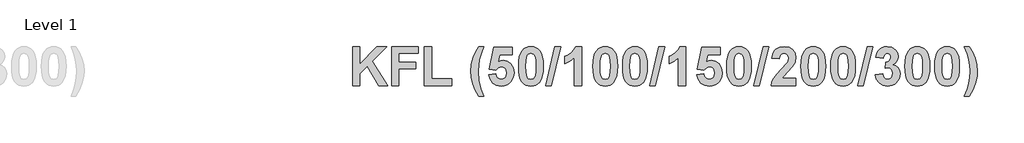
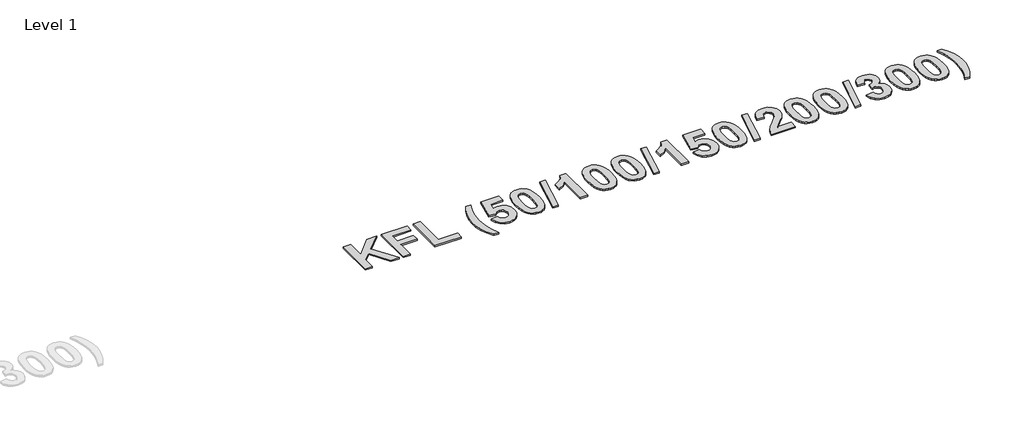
# One storey, part 7 of 42: 1 proxy.
"""IFC4 building model written with IfcOpenShell, lengths in millimetres."""

import ifcopenshell
import ifcopenshell.guid

model = None  # the IFC model being written
_history = None  # IfcOwnerHistory: only IFC2X3 demands one
_inside = {}  # id of a spatial element -> (the spatial element, [elements in it])
_under = {}  # id of a project, library or spatial element -> (it, [spatial elements below it])
_declared = {}  # id of a project -> (the project, [libraries it declares])
_typed = {}  # id of a type object -> (the type object, [elements of that type])
_made_of = {}  # id of a material, layer set ... -> (it, [elements and type objects made of it])


def new_model(schema):
    """Start an empty IFC model of exactly this schema.

    Asked for "IFC4X3", IfcOpenShell would pick the latest addendum, in which some entities
    have other attributes; the version numbers below select the first issue.
    IFC2X3 requires an IfcOwnerHistory on every rooted entity: one is made here for all.
    """
    global model, _history
    if schema == "IFC4X3":
        model = ifcopenshell.file(schema_version=(4, 3, 0, 0))
    else:
        model = ifcopenshell.file(schema=schema)
    _inside.clear()
    _under.clear()
    _declared.clear()
    _typed.clear()
    _made_of.clear()
    _history = None
    if model.schema == "IFC2X3":
        org = make("IfcOrganization", Name="unknown")
        user = make(
            "IfcPersonAndOrganization",
            ThePerson=make("IfcPerson", FamilyName="unknown"),
            TheOrganization=org,
        )
        app = make(
            "IfcApplication",
            ApplicationDeveloper=org,
            Version="unknown",
            ApplicationFullName="unknown",
            ApplicationIdentifier="unknown",
        )
        _history = make(
            "IfcOwnerHistory",
            OwningUser=user,
            OwningApplication=app,
            ChangeAction="ADDED",
            CreationDate=0,
        )
    return model


def make(cls, **values):
    """One entity of the class cls with the attributes given. An attribute that is None is left unset."""
    return model.create_entity(
        cls, **{name: value for name, value in values.items() if value is not None}
    )


def rooted(cls, **values):
    """An entity with a GlobalId (a new one), such as an element, a storey or a relation."""
    return make(cls, GlobalId=ifcopenshell.guid.new(), OwnerHistory=_history, **values)


def si_unit(unit_type, name, prefix=None):
    """IfcSIUnit, for example si_unit("LENGTHUNIT", "METRE", prefix="MILLI")."""
    return make("IfcSIUnit", UnitType=unit_type, Prefix=prefix, Name=name)


def assignment(units):
    """IfcUnitAssignment: the units of a project."""
    return None if units is None else make("IfcUnitAssignment", Units=units)


def point(xyz):
    """IfcCartesianPoint."""
    return None if xyz is None else make("IfcCartesianPoint", Coordinates=xyz)


def direction(xyz):
    """IfcDirection."""
    return None if xyz is None else make("IfcDirection", DirectionRatios=xyz)


def frame(location, z_axis=None, x_axis=None):
    """IfcAxis2Placement3D, a coordinate frame: its origin and axes. An axis left out is left unset."""
    return make(
        "IfcAxis2Placement3D",
        Location=point(location),
        Axis=direction(z_axis),
        RefDirection=direction(x_axis),
    )


def origin():
    """The frame at (0, 0, 0) with its axes left unset."""
    return frame((0.0, 0.0, 0.0))


def origin_with_axes():
    """The frame at (0, 0, 0) with the z axis (0, 0, 1) and the x axis (1, 0, 0) written out."""
    return frame((0.0, 0.0, 0.0), z_axis=(0.0, 0.0, 1.0), x_axis=(1.0, 0.0, 0.0))


def place(relative_to, where):
    """IfcLocalPlacement: puts the frame where relative to a parent placement (None: the world)."""
    return make(
        "IfcLocalPlacement", PlacementRelTo=relative_to, RelativePlacement=where
    )


def context(
    kind, dimensions, precision=None, world=None, true_north=None, identifier=None
):
    """IfcGeometricRepresentationContext, for example the 3D "Model" context."""
    return make(
        "IfcGeometricRepresentationContext",
        ContextIdentifier=identifier,
        ContextType=kind,
        CoordinateSpaceDimension=dimensions,
        Precision=precision,
        WorldCoordinateSystem=world,
        TrueNorth=true_north,
    )


def project(units=None, contexts=None):
    """IfcProject with its units and contexts."""
    return rooted(
        "IfcProject",
        Name="project",
        RepresentationContexts=contexts,
        UnitsInContext=assignment(units),
    )


def spatial(cls, under=None, at=None, **own):
    """A site, building, storey or space (cls), placed at a placement, below another one or the project."""
    s = rooted(cls, ObjectPlacement=at, **own)
    if under is not None:
        _under.setdefault(under.id(), (under, []))[1].append(s)
    return s


def polyline(points):
    """IfcPolyline through the points."""
    return make("IfcPolyline", Points=[point(p) for p in points])


def outline(outer, holes=None, kind="AREA"):
    """IfcArbitraryClosedProfileDef: a profile drawn as a closed curve; with holes, ...WithVoids."""
    if holes is None:
        return make("IfcArbitraryClosedProfileDef", ProfileType=kind, OuterCurve=outer)
    return make(
        "IfcArbitraryProfileDefWithVoids",
        ProfileType=kind,
        OuterCurve=outer,
        InnerCurves=holes,
    )


def extrude(swept, where, along, depth):
    """IfcExtrudedAreaSolid: the profile swept, set in the frame where, extruded along a direction by depth."""
    return make(
        "IfcExtrudedAreaSolid",
        SweptArea=swept,
        Position=where,
        ExtrudedDirection=direction(along),
        Depth=depth,
    )


def shape(context_of_items, identifier, shape_type, items):
    """IfcShapeRepresentation: the items that make up one representation, for example the "Body"."""
    return make(
        "IfcShapeRepresentation",
        ContextOfItems=context_of_items,
        RepresentationIdentifier=identifier,
        RepresentationType=shape_type,
        Items=items,
    )


def made_of(thing, what):
    """Note that an element or type object is made of a material, layer set ...; save() writes the relation."""
    if what is not None:
        _made_of.setdefault(what.id(), (what, []))[1].append(thing)
    return thing


def element(
    cls,
    number,
    at=None,
    inside=None,
    cuts=None,
    type_object=None,
    material=None,
    context=None,
    identifier="Body",
    shape_type=None,
    held_by="IfcProductDefinitionShape",
    body=None,
    shapes=None,
    **own,
):
    """One element of the class cls, such as IfcWall. Its Tag is "e" and its number.

    at: its placement. inside: the storey or other place that contains it. cuts: it is an
    opening in that element (IfcRelVoidsElement). A single representation is given by context,
    identifier, shape_type and body (its items); several are given by shapes. held_by: the class
    of the entity that holds the representations. save() writes the other relations.
    """
    e = rooted(cls, Tag="e%d" % number, ObjectPlacement=at, **own)
    if body is not None:
        shapes = [shape(context, identifier, shape_type, body)]
    if shapes is not None:
        e.Representation = make(held_by, Representations=shapes)
    if inside is not None:
        _inside.setdefault(inside.id(), (inside, []))[1].append(e)
    if cuts is not None:
        rooted(
            "IfcRelVoidsElement", RelatingBuildingElement=cuts, RelatedOpeningElement=e
        )
    if type_object is not None:
        _typed.setdefault(type_object.id(), (type_object, []))[1].append(e)
    return made_of(e, material)


def aggregate(whole, parts):
    """IfcRelAggregates: a whole, such as a stair, and the parts it consists of."""
    return rooted("IfcRelAggregates", RelatingObject=whole, RelatedObjects=parts)


def save(model, path):
    """Write the relations noted so far, then the file.

    IfcRelAggregates (storeys below a building ...), IfcRelContainedInSpatialStructure (elements
    in a storey), IfcRelDefinesByType, IfcRelAssociatesMaterial and IfcRelDeclares: one each for
    every whole, place, type object, material and project.
    """
    for whole, parts in _under.values():
        aggregate(whole, parts)
    for where, things in _inside.values():
        rooted(
            "IfcRelContainedInSpatialStructure",
            RelatedElements=things,
            RelatingStructure=where,
        )
    for kind, things in _typed.values():
        rooted("IfcRelDefinesByType", RelatedObjects=things, RelatingType=kind)
    for what, things in _made_of.values():
        rooted("IfcRelAssociatesMaterial", RelatedObjects=things, RelatingMaterial=what)
    for by, libraries in _declared.values():
        rooted("IfcRelDeclares", RelatingContext=by, RelatedDefinitions=libraries)
    model.write(path)


model = new_model("IFC4")

# Units and contexts
model_context = context("Model", 3, world=origin())
ifc_project = project(units=[si_unit("LENGTHUNIT", "METRE", prefix="MILLI")], contexts=[model_context])

# Site, building, storey
site = spatial("IfcSite", under=ifc_project)
building = spatial("IfcBuilding", under=site)
storey = spatial("IfcBuildingStorey", under=building, Name="Level 1", Elevation=0.0)

# Proxy
placement = place(None, origin())
element("IfcBuildingElementProxy", 1, Name="300mm Arial 2", ObjectType="300mm Arial 2", at=placement, inside=storey, context=model_context, shape_type="SweptSolid", body=[
    extrude(outline(polyline([(-23474.3228423, -1533.7239141), (-23474.3228423, -1278.6590641), (-23425.7390614, -1278.6590641), (-23425.7390614, -1394.9311857), (-23316.299034, -1278.6590641), (-23249.6228554, -1278.6590641), (-23346.157816, -1376.0796665), (-23245.574207, -1533.7239141), (-23302.381805, -1533.7239141), (-23377.7246216, -1408.0260329), (-23425.7390614, -1456.5465537), (-23425.7390614, -1533.7239141), (-23474.3228423, -1533.7239141)])), origin_with_axes(), (0.0, 0.0, 1.0), 10.0),
    extrude(outline(polyline([(-23219.2579923, -1533.7239141), (-23219.2579923, -1278.6590641), (-23045.1661106, -1278.6590641), (-23045.1661106, -1323.1941966), (-23170.6742114, -1323.1941966), (-23170.6742114, -1379.8752744), (-23061.3607042, -1379.8752744), (-23061.3607042, -1424.4104069), (-23170.6742114, -1424.4104069), (-23170.6742114, -1533.7239141), (-23219.2579923, -1533.7239141)])), origin_with_axes(), (0.0, 0.0, 1.0), 10.0),
    extrude(outline(polyline([(-23004.6796265, -1533.7239141), (-23004.6796265, -1278.6590641), (-22956.0958455, -1278.6590641), (-22956.0958455, -1489.1887815), (-22826.5390963, -1489.1887815), (-22826.5390963, -1533.7239141), (-23004.6796265, -1533.7239141)])), origin_with_axes(), (0.0, 0.0, 1.0), 10.0),
    extrude(outline(polyline([(-22616.0093789, -1602.5509371), (-22648.3985662, -1602.5509371), (-22671.0694158, -1562.8789271), (-22687.5882176, -1521.672859), (-22697.670301, -1480.3719007), (-22701.0309955, -1440.4152202), (-22696.919087, -1393.0175667), (-22684.5833613, -1348.2452087), (-22668.3887677, -1311.9655233), (-22648.3985662, -1278.6590641), (-22616.0093789, -1278.6590641), (-22633.5719728, -1325.8985672), (-22644.6345883, -1365.5152246), (-22650.494058, -1402.3958812), (-22652.4472146, -1441.4273823), (-22647.7659648, -1498.07683), (-22634.9241582, -1553.1447744), (-22616.0093789, -1602.5509371)])), origin_with_axes(), (0.0, 0.0, 1.0), 10.0),
    extrude(outline(polyline([(-22583.6201916, -1461.9236649), (-22539.085059, -1456.7995942), (-22534.9415204, -1471.8713205), (-22526.6860733, -1483.4321096), (-22515.5839202, -1490.7860999), (-22502.9002638, -1493.2374299), (-22488.7062718, -1490.635857), (-22476.8687197, -1482.8311383), (-22468.8742206, -1469.7916437), (-22466.2093876, -1451.4857432), (-22468.6844402, -1434.3264325), (-22476.1095982, -1422.0697821), (-22487.5043293, -1414.7157918), (-22501.8881017, -1412.2644617), (-22520.7079908, -1417.3252722), (-22537.4402956, -1432.5077038), (-22579.5715431, -1426.2449507), (-22551.2310043, -1282.7077125), (-22429.7715519, -1282.7077125), (-22429.7715519, -1331.2914934), (-22511.9464626, -1331.2914934), (-22521.751783, -1377.6611698), (-22506.2688658, -1370.2122893), (-22490.4380179, -1367.7293292), (-22462.3188895, -1373.4780936), (-22438.8177507, -1390.7243869), (-22422.9236426, -1417.1433993), (-22417.6256066, -1450.410321), (-22422.0380008, -1479.3360161), (-22435.2751833, -1505.0038144), (-22448.492597, -1519.3401417), (-22464.0427281, -1529.5803755), (-22481.9255765, -1535.7245157), (-22502.1411423, -1537.7725625), (-22533.1465142, -1532.6326768), (-22557.841688, -1517.2130198), (-22575.0563513, -1493.1109097), (-22583.6201916, -1461.9236649)])), origin_with_axes(), (0.0, 0.0, 1.0), 10.0),
    extrude(outline(polyline([(-22308.3120995, -1278.6590641), (-22291.1804652, -1280.3038275), (-22276.0336174, -1285.2381177), (-22262.8715563, -1293.4619348), (-22251.6942819, -1304.9752788), (-22241.0389035, -1323.1032602), (-22233.4279189, -1346.3632198), (-22228.8613282, -1374.7551575), (-22227.3391313, -1408.2790734), (-22228.8692357, -1441.7713593), (-22233.459549, -1470.1949271), (-22241.1100711, -1493.5497768), (-22251.8208021, -1511.8359086), (-22262.942724, -1523.1831947), (-22276.0652475, -1531.288399), (-22291.1883727, -1536.1515216), (-22308.3120995, -1537.7725625), (-22325.6196761, -1535.9933713), (-22341.1678303, -1530.6557977), (-22354.956562, -1521.7598417), (-22366.9858714, -1509.3055033), (-22376.7417698, -1492.2845742), (-22383.7102687, -1469.688846), (-22387.891368, -1441.5183187), (-22389.2850678, -1407.7729924), (-22387.7549633, -1374.4467644), (-22383.16465, -1346.1418093), (-22375.5141279, -1322.8581272), (-22364.8033969, -1304.595718), (-22353.681475, -1293.2484319), (-22340.5589515, -1285.1432276), (-22325.4358263, -1280.2801049), (-22308.3120995, -1278.6590641)]), holes=[polyline([(-22308.3120995, -1323.1941966), (-22324.5066932, -1328.5396777), (-22330.8327063, -1336.0122808), (-22335.513956, -1347.7391276), (-22339.4044541, -1371.8886828), (-22340.7012868, -1408.2790734), (-22339.5467894, -1444.1871055), (-22336.0832972, -1466.7630649), (-22330.8564288, -1480.0160625), (-22324.411803, -1487.955209), (-22308.3120995, -1493.2374299), (-22292.1175059, -1487.8919488), (-22285.7914927, -1480.4193458), (-22281.110243, -1468.6924989), (-22277.2197449, -1444.669464), (-22275.9229122, -1408.2790734), (-22277.0774096, -1372.4105789), (-22280.5409018, -1349.826712), (-22285.7677702, -1336.5341768), (-22292.212396, -1328.5396777), (-22308.3120995, -1323.1941966)])]), origin_with_axes(), (0.0, 0.0, 1.0), 10.0),
    extrude(outline(polyline([(-22212.0301794, -1533.7239141), (-22151.3004533, -1278.6590641), (-22113.9769757, -1278.6590641), (-22174.7067019, -1533.7239141), (-22212.0301794, -1533.7239141)])), origin_with_axes(), (0.0, 0.0, 1.0), 10.0),
    extrude(outline(polyline([(-21976.3229297, -1533.7239141), (-22024.9067106, -1533.7239141), (-22024.9067106, -1351.4082152), (-22052.9625789, -1375.2889149), (-22085.6364368, -1392.0212196), (-22085.6364368, -1343.4374387), (-22066.1681314, -1334.3517023), (-22045.0866926, -1319.6199992), (-22026.6305492, -1300.6024222), (-22015.0381301, -1278.6590641), (-21976.3229297, -1278.6590641), (-21976.3229297, -1533.7239141)])), origin_with_axes(), (0.0, 0.0, 1.0), 10.0),
    extrude(outline(polyline([(-21822.47429, -1278.6590641), (-21805.3426557, -1280.3038275), (-21790.1958079, -1285.2381177), (-21777.0337468, -1293.4619348), (-21765.8564724, -1304.9752788), (-21755.201094, -1323.1032602), (-21747.5901094, -1346.3632198), (-21743.0235187, -1374.7551575), (-21741.5013217, -1408.2790734), (-21743.0314262, -1441.7713593), (-21747.6217395, -1470.1949271), (-21755.2722616, -1493.5497768), (-21765.9829926, -1511.8359086), (-21777.1049145, -1523.1831947), (-21790.227438, -1531.288399), (-21805.3505632, -1536.1515216), (-21822.47429, -1537.7725625), (-21839.7818666, -1535.9933713), (-21855.3300208, -1530.6557977), (-21869.1187525, -1521.7598417), (-21881.1480619, -1509.3055033), (-21890.9039603, -1492.2845742), (-21897.8724592, -1469.688846), (-21902.0535585, -1441.5183187), (-21903.4472582, -1407.7729924), (-21901.9171538, -1374.4467644), (-21897.3268405, -1346.1418093), (-21889.6763184, -1322.8581272), (-21878.9655874, -1304.595718), (-21867.8436655, -1293.2484319), (-21854.721142, -1285.1432276), (-21839.5980168, -1280.2801049), (-21822.47429, -1278.6590641)]), holes=[polyline([(-21822.47429, -1323.1941966), (-21838.6688836, -1328.5396777), (-21844.9948968, -1336.0122808), (-21849.6761465, -1347.7391276), (-21853.5666446, -1371.8886828), (-21854.8634773, -1408.2790734), (-21853.7089799, -1444.1871055), (-21850.2454877, -1466.7630649), (-21845.0186193, -1480.0160625), (-21838.5739935, -1487.955209), (-21822.47429, -1493.2374299), (-21806.2796963, -1487.8919488), (-21799.9536832, -1480.4193458), (-21795.2724335, -1468.6924989), (-21791.3819354, -1444.669464), (-21790.0851027, -1408.2790734), (-21791.2396001, -1372.4105789), (-21794.7030923, -1349.826712), (-21799.9299607, -1336.5341768), (-21806.3745865, -1328.5396777), (-21822.47429, -1323.1941966)])]), origin_with_axes(), (0.0, 0.0, 1.0), 10.0),
    extrude(outline(polyline([(-21628.1391662, -1278.6590641), (-21611.0075318, -1280.3038275), (-21595.8606841, -1285.2381177), (-21582.698623, -1293.4619348), (-21571.5213486, -1304.9752788), (-21560.8659702, -1323.1032602), (-21553.2549856, -1346.3632198), (-21548.6883949, -1374.7551575), (-21547.1661979, -1408.2790734), (-21548.6963024, -1441.7713593), (-21553.2866157, -1470.1949271), (-21560.9371378, -1493.5497768), (-21571.6478688, -1511.8359086), (-21582.7697907, -1523.1831947), (-21595.8923142, -1531.288399), (-21611.0154394, -1536.1515216), (-21628.1391662, -1537.7725625), (-21645.4467428, -1535.9933713), (-21660.994897, -1530.6557977), (-21674.7836287, -1521.7598417), (-21686.8129381, -1509.3055033), (-21696.5688365, -1492.2845742), (-21703.5373354, -1469.688846), (-21707.7184347, -1441.5183187), (-21709.1121344, -1407.7729924), (-21707.58203, -1374.4467644), (-21702.9917167, -1346.1418093), (-21695.3411946, -1322.8581272), (-21684.6304636, -1304.595718), (-21673.5085417, -1293.2484319), (-21660.3860182, -1285.1432276), (-21645.262893, -1280.2801049), (-21628.1391662, -1278.6590641)]), holes=[polyline([(-21628.1391662, -1323.1941966), (-21644.3337598, -1328.5396777), (-21650.659773, -1336.0122808), (-21655.3410227, -1347.7391276), (-21659.2315208, -1371.8886828), (-21660.5283535, -1408.2790734), (-21659.3738561, -1444.1871055), (-21655.9103639, -1466.7630649), (-21650.6834955, -1480.0160625), (-21644.2388696, -1487.955209), (-21628.1391662, -1493.2374299), (-21611.9445725, -1487.8919488), (-21605.6185594, -1480.4193458), (-21600.9373097, -1468.6924989), (-21597.0468116, -1444.669464), (-21595.7499789, -1408.2790734), (-21596.9044763, -1372.4105789), (-21600.3679685, -1349.826712), (-21605.5948369, -1336.5341768), (-21612.0394627, -1328.5396777), (-21628.1391662, -1323.1941966)])]), origin_with_axes(), (0.0, 0.0, 1.0), 10.0),
    extrude(outline(polyline([(-21531.8572461, -1533.7239141), (-21471.1275199, -1278.6590641), (-21433.8040424, -1278.6590641), (-21494.5337686, -1533.7239141), (-21531.8572461, -1533.7239141)])), origin_with_axes(), (0.0, 0.0, 1.0), 10.0),
    extrude(outline(polyline([(-21296.1499964, -1533.7239141), (-21344.7337773, -1533.7239141), (-21344.7337773, -1351.4082152), (-21372.7896456, -1375.2889149), (-21405.4635035, -1392.0212196), (-21405.4635035, -1343.4374387), (-21385.9951981, -1334.3517023), (-21364.9137593, -1319.6199992), (-21346.4576159, -1300.6024222), (-21334.8651968, -1278.6590641), (-21296.1499964, -1278.6590641), (-21296.1499964, -1533.7239141)])), origin_with_axes(), (0.0, 0.0, 1.0), 10.0),
    extrude(outline(polyline([(-21223.2743249, -1461.9236649), (-21178.7391924, -1456.7995942), (-21174.5956538, -1471.8713205), (-21166.3402066, -1483.4321096), (-21155.2380536, -1490.7860999), (-21142.5543972, -1493.2374299), (-21128.3604052, -1490.635857), (-21116.5228531, -1482.8311383), (-21108.528354, -1469.7916437), (-21105.863521, -1451.4857432), (-21108.3385736, -1434.3264325), (-21115.7637316, -1422.0697821), (-21127.1584627, -1414.7157918), (-21141.5422351, -1412.2644617), (-21160.3621242, -1417.3252722), (-21177.094429, -1432.5077038), (-21219.2256765, -1426.2449507), (-21190.8851376, -1282.7077125), (-21069.4256853, -1282.7077125), (-21069.4256853, -1331.2914934), (-21151.600596, -1331.2914934), (-21161.4059164, -1377.6611698), (-21145.9229992, -1370.2122893), (-21130.0921513, -1367.7293292), (-21101.9730229, -1373.4780936), (-21078.4718841, -1390.7243869), (-21062.577776, -1417.1433993), (-21057.27974, -1450.410321), (-21061.6921342, -1479.3360161), (-21074.9293167, -1505.0038144), (-21088.1467304, -1519.3401417), (-21103.6968615, -1529.5803755), (-21121.5797099, -1535.7245157), (-21141.7952756, -1537.7725625), (-21172.8006476, -1532.6326768), (-21197.4958214, -1517.2130198), (-21214.7104846, -1493.1109097), (-21223.2743249, -1461.9236649)])), origin_with_axes(), (0.0, 0.0, 1.0), 10.0),
    extrude(outline(polyline([(-20947.9662329, -1278.6590641), (-20930.8345985, -1280.3038275), (-20915.6877508, -1285.2381177), (-20902.5256897, -1293.4619348), (-20891.3484152, -1304.9752788), (-20880.6930369, -1323.1032602), (-20873.0820523, -1346.3632198), (-20868.5154616, -1374.7551575), (-20866.9932646, -1408.2790734), (-20868.5233691, -1441.7713593), (-20873.1136824, -1470.1949271), (-20880.7642045, -1493.5497768), (-20891.4749355, -1511.8359086), (-20902.5968574, -1523.1831947), (-20915.7193809, -1531.288399), (-20930.8425061, -1536.1515216), (-20947.9662329, -1537.7725625), (-20965.2738095, -1535.9933713), (-20980.8219637, -1530.6557977), (-20994.6106954, -1521.7598417), (-21006.6400048, -1509.3055033), (-21016.3959032, -1492.2845742), (-21023.3644021, -1469.688846), (-21027.5455014, -1441.5183187), (-21028.9392011, -1407.7729924), (-21027.4090967, -1374.4467644), (-21022.8187834, -1346.1418093), (-21015.1682613, -1322.8581272), (-21004.4575303, -1304.595718), (-20993.3356084, -1293.2484319), (-20980.2130849, -1285.1432276), (-20965.0899597, -1280.2801049), (-20947.9662329, -1278.6590641)]), holes=[polyline([(-20947.9662329, -1323.1941966), (-20964.1608265, -1328.5396777), (-20970.4868397, -1336.0122808), (-20975.1680894, -1347.7391276), (-20979.0585875, -1371.8886828), (-20980.3554202, -1408.2790734), (-20979.2009228, -1444.1871055), (-20975.7374306, -1466.7630649), (-20970.5105622, -1480.0160625), (-20964.0659363, -1487.955209), (-20947.9662329, -1493.2374299), (-20931.7716392, -1487.8919488), (-20925.4456261, -1480.4193458), (-20920.7643764, -1468.6924989), (-20916.8738783, -1444.669464), (-20915.5770456, -1408.2790734), (-20916.731543, -1372.4105789), (-20920.1950352, -1349.826712), (-20925.4219035, -1336.5341768), (-20931.8665294, -1328.5396777), (-20947.9662329, -1323.1941966)])]), origin_with_axes(), (0.0, 0.0, 1.0), 10.0),
    extrude(outline(polyline([(-20851.6843128, -1533.7239141), (-20790.9545866, -1278.6590641), (-20753.6311091, -1278.6590641), (-20814.3608353, -1533.7239141), (-20851.6843128, -1533.7239141)])), origin_with_axes(), (0.0, 0.0, 1.0), 10.0),
    extrude(outline(polyline([(-20575.4905789, -1485.1401331), (-20575.4905789, -1533.7239141), (-20737.4365154, -1533.7239141), (-20732.2649997, -1509.2185207), (-20721.9377832, -1486.057405), (-20702.7541484, -1459.8756181), (-20671.0133774, -1426.3082109), (-20633.4368593, -1385.5686862), (-20626.4149848, -1370.8607057), (-20624.0743599, -1356.3425055), (-20626.0433315, -1342.1959586), (-20631.9502463, -1331.7659444), (-20641.3206532, -1325.3371336), (-20653.6801014, -1323.1941966), (-20665.9525669, -1325.3055035), (-20675.4415866, -1331.6394242), (-20681.8308599, -1342.86019), (-20684.8040861, -1359.6320323), (-20733.387867, -1355.2038231), (-20724.7844892, -1320.0549126), (-20717.1616433, -1306.8157532), (-20707.3246929, -1296.4667911), (-20682.7006867, -1283.1109958), (-20652.6046792, -1278.6590641), (-20620.4685324, -1283.6487069), (-20596.0501217, -1298.6176356), (-20580.6304646, -1321.0038146), (-20575.4905789, -1348.2452087), (-20581.1207306, -1380.3813554), (-20598.9600877, -1412.3277218), (-20629.1668005, -1444.2108281), (-20656.9063681, -1471.8555055), (-20666.015827, -1485.1401331), (-20575.4905789, -1485.1401331)])), origin_with_axes(), (0.0, 0.0, 1.0), 10.0),
    extrude(outline(polyline([(-20462.1284234, -1278.6590641), (-20444.996789, -1280.3038275), (-20429.8499413, -1285.2381177), (-20416.6878802, -1293.4619348), (-20405.5106057, -1304.9752788), (-20394.8552274, -1323.1032602), (-20387.2442428, -1346.3632198), (-20382.6776521, -1374.7551575), (-20381.1554551, -1408.2790734), (-20382.6855596, -1441.7713593), (-20387.2758729, -1470.1949271), (-20394.926395, -1493.5497768), (-20405.637126, -1511.8359086), (-20416.7590479, -1523.1831947), (-20429.8815714, -1531.288399), (-20445.0046966, -1536.1515216), (-20462.1284234, -1537.7725625), (-20479.436, -1535.9933713), (-20494.9841542, -1530.6557977), (-20508.7728859, -1521.7598417), (-20520.8021953, -1509.3055033), (-20530.5580937, -1492.2845742), (-20537.5265926, -1469.688846), (-20541.7076919, -1441.5183187), (-20543.1013916, -1407.7729924), (-20541.5712872, -1374.4467644), (-20536.9809739, -1346.1418093), (-20529.3304518, -1322.8581272), (-20518.6197208, -1304.595718), (-20507.4977989, -1293.2484319), (-20494.3752754, -1285.1432276), (-20479.2521502, -1280.2801049), (-20462.1284234, -1278.6590641)]), holes=[polyline([(-20462.1284234, -1323.1941966), (-20478.323017, -1328.5396777), (-20484.6490302, -1336.0122808), (-20489.3302799, -1347.7391276), (-20493.220778, -1371.8886828), (-20494.5176107, -1408.2790734), (-20493.3631133, -1444.1871055), (-20489.8996211, -1466.7630649), (-20484.6727527, -1480.0160625), (-20478.2281268, -1487.955209), (-20462.1284234, -1493.2374299), (-20445.9338297, -1487.8919488), (-20439.6078166, -1480.4193458), (-20434.9265669, -1468.6924989), (-20431.0360688, -1444.669464), (-20429.7392361, -1408.2790734), (-20430.8937335, -1372.4105789), (-20434.3572257, -1349.826712), (-20439.584094, -1336.5341768), (-20446.0287199, -1328.5396777), (-20462.1284234, -1323.1941966)])]), origin_with_axes(), (0.0, 0.0, 1.0), 10.0),
    extrude(outline(polyline([(-20267.7932996, -1278.6590641), (-20250.6616652, -1280.3038275), (-20235.5148175, -1285.2381177), (-20222.3527564, -1293.4619348), (-20211.1754819, -1304.9752788), (-20200.5201036, -1323.1032602), (-20192.909119, -1346.3632198), (-20188.3425282, -1374.7551575), (-20186.8203313, -1408.2790734), (-20188.3504358, -1441.7713593), (-20192.9407491, -1470.1949271), (-20200.5912712, -1493.5497768), (-20211.3020022, -1511.8359086), (-20222.4239241, -1523.1831947), (-20235.5464476, -1531.288399), (-20250.6695728, -1536.1515216), (-20267.7932996, -1537.7725625), (-20285.1008762, -1535.9933713), (-20300.6490304, -1530.6557977), (-20314.4377621, -1521.7598417), (-20326.4670715, -1509.3055033), (-20336.2229699, -1492.2845742), (-20343.1914688, -1469.688846), (-20347.3725681, -1441.5183187), (-20348.7662678, -1407.7729924), (-20347.2361634, -1374.4467644), (-20342.6458501, -1346.1418093), (-20334.995328, -1322.8581272), (-20324.284597, -1304.595718), (-20313.1626751, -1293.2484319), (-20300.0401516, -1285.1432276), (-20284.9170264, -1280.2801049), (-20267.7932996, -1278.6590641)]), holes=[polyline([(-20267.7932996, -1323.1941966), (-20283.9878932, -1328.5396777), (-20290.3139064, -1336.0122808), (-20294.9951561, -1347.7391276), (-20298.8856542, -1371.8886828), (-20300.1824869, -1408.2790734), (-20299.0279895, -1444.1871055), (-20295.5644973, -1466.7630649), (-20290.3376289, -1480.0160625), (-20283.893003, -1487.955209), (-20267.7932996, -1493.2374299), (-20251.5987059, -1487.8919488), (-20245.2726928, -1480.4193458), (-20240.5914431, -1468.6924989), (-20236.700945, -1444.669464), (-20235.4041123, -1408.2790734), (-20236.5586097, -1372.4105789), (-20240.0221019, -1349.826712), (-20245.2489702, -1336.5341768), (-20251.6935961, -1328.5396777), (-20267.7932996, -1323.1941966)])]), origin_with_axes(), (0.0, 0.0, 1.0), 10.0),
    extrude(outline(polyline([(-20171.5113795, -1533.7239141), (-20110.7816533, -1278.6590641), (-20073.4581758, -1278.6590641), (-20134.187902, -1533.7239141), (-20171.5113795, -1533.7239141)])), origin_with_axes(), (0.0, 0.0, 1.0), 10.0),
    extrude(outline(polyline([(-20057.2635821, -1462.4297459), (-20008.6798012, -1456.7995942), (-20004.9316384, -1472.4248467), (-19997.7357984, -1483.8749305), (-19987.883033, -1490.8968051), (-19976.1640936, -1493.2374299), (-19963.5911425, -1490.5567819), (-19953.2006659, -1482.5148377), (-19946.2262364, -1469.933979), (-19943.9014266, -1453.6365877), (-19946.0285485, -1438.2169306), (-19952.4099143, -1426.371471), (-19961.8593964, -1418.8277003), (-19973.1908674, -1416.3131101), (-19992.4852075, -1419.9189376), (-19988.2467787, -1379.8752744), (-19974.4165325, -1378.1356208), (-19964.302819, -1371.9044978), (-19958.1112336, -1362.0359173), (-19956.0473718, -1349.383891), (-19957.5893375, -1338.6375762), (-19962.2152346, -1330.3109614), (-19969.4031671, -1324.9733878), (-19978.6312387, -1323.1941966), (-19988.0174608, -1325.2580584), (-19995.9328847, -1331.4496438), (-20001.6974642, -1341.6108024), (-20004.6311528, -1355.5833839), (-20053.2149337, -1348.3084688), (-20047.6559497, -1326.5707061), (-20039.8354159, -1309.6881586), (-20029.1128236, -1296.7751842), (-20014.847664, -1286.9461413), (-19997.8544112, -1280.7308334), (-19978.9475394, -1278.6590641), (-19948.2980057, -1284.399921), (-19935.5115517, -1291.5759922), (-19924.4173061, -1301.6224918), (-19911.7020197, -1321.6443234), (-19907.4635909, -1344.1333001), (-19909.7370018, -1360.078807), (-19916.5572348, -1374.3241979), (-19927.9242896, -1386.8694727), (-19943.8381665, -1397.7146315), (-19923.9744852, -1405.2663097), (-19908.5390131, -1418.5588448), (-19898.6229875, -1436.4219244), (-19895.3176456, -1457.6852361), (-19901.1771153, -1488.4533825), (-19918.7555243, -1514.3346838), (-19931.1920708, -1524.5887557), (-19945.0638315, -1531.9130928), (-19977.1129956, -1537.7725625), (-20007.375061, -1532.5615092), (-20031.9911596, -1516.9283492), (-20049.2058229, -1492.8815917), (-20057.2635821, -1462.4297459)])), origin_with_axes(), (0.0, 0.0, 1.0), 10.0),
    extrude(outline(polyline([(-19781.9554901, -1278.6590641), (-19764.8238557, -1280.3038275), (-19749.677008, -1285.2381177), (-19736.5149469, -1293.4619348), (-19725.3376724, -1304.9752788), (-19714.682294, -1323.1032602), (-19707.0713095, -1346.3632198), (-19702.5047187, -1374.7551575), (-19700.9825218, -1408.2790734), (-19702.5126263, -1441.7713593), (-19707.1029396, -1470.1949271), (-19714.7534617, -1493.5497768), (-19725.4641927, -1511.8359086), (-19736.5861146, -1523.1831947), (-19749.7086381, -1531.288399), (-19764.8317633, -1536.1515216), (-19781.9554901, -1537.7725625), (-19799.2630667, -1535.9933713), (-19814.8112209, -1530.6557977), (-19828.5999526, -1521.7598417), (-19840.629262, -1509.3055033), (-19850.3851604, -1492.2845742), (-19857.3536593, -1469.688846), (-19861.5347586, -1441.5183187), (-19862.9284583, -1407.7729924), (-19861.3983539, -1374.4467644), (-19856.8080406, -1346.1418093), (-19849.1575185, -1322.8581272), (-19838.4467875, -1304.595718), (-19827.3248656, -1293.2484319), (-19814.2023421, -1285.1432276), (-19799.0792169, -1280.2801049), (-19781.9554901, -1278.6590641)]), holes=[polyline([(-19781.9554901, -1323.1941966), (-19798.1500837, -1328.5396777), (-19804.4760969, -1336.0122808), (-19809.1573466, -1347.7391276), (-19813.0478447, -1371.8886828), (-19814.3446774, -1408.2790734), (-19813.19018, -1444.1871055), (-19809.7266878, -1466.7630649), (-19804.4998194, -1480.0160625), (-19798.0551935, -1487.955209), (-19781.9554901, -1493.2374299), (-19765.7608964, -1487.8919488), (-19759.4348833, -1480.4193458), (-19754.7536336, -1468.6924989), (-19750.8631355, -1444.669464), (-19749.5663028, -1408.2790734), (-19750.7208002, -1372.4105789), (-19754.1842924, -1349.826712), (-19759.4111607, -1336.5341768), (-19765.8557866, -1328.5396777), (-19781.9554901, -1323.1941966)])]), origin_with_axes(), (0.0, 0.0, 1.0), 10.0),
    extrude(outline(polyline([(-19587.6203663, -1278.6590641), (-19570.4887319, -1280.3038275), (-19555.3418842, -1285.2381177), (-19542.1798231, -1293.4619348), (-19531.0025486, -1304.9752788), (-19520.3471702, -1323.1032602), (-19512.7361857, -1346.3632198), (-19508.1695949, -1374.7551575), (-19506.647398, -1408.2790734), (-19508.1775025, -1441.7713593), (-19512.7678157, -1470.1949271), (-19520.4183379, -1493.5497768), (-19531.1290689, -1511.8359086), (-19542.2509908, -1523.1831947), (-19555.3735143, -1531.288399), (-19570.4966395, -1536.1515216), (-19587.6203663, -1537.7725625), (-19604.9279429, -1535.9933713), (-19620.4760971, -1530.6557977), (-19634.2648288, -1521.7598417), (-19646.2941382, -1509.3055033), (-19656.0500366, -1492.2845742), (-19663.0185354, -1469.688846), (-19667.1996348, -1441.5183187), (-19668.5933345, -1407.7729924), (-19667.0632301, -1374.4467644), (-19662.4729168, -1346.1418093), (-19654.8223947, -1322.8581272), (-19644.1116637, -1304.595718), (-19632.9897418, -1293.2484319), (-19619.8672183, -1285.1432276), (-19604.7440931, -1280.2801049), (-19587.6203663, -1278.6590641)]), holes=[polyline([(-19587.6203663, -1323.1941966), (-19603.8149599, -1328.5396777), (-19610.1409731, -1336.0122808), (-19614.8222228, -1347.7391276), (-19618.7127209, -1371.8886828), (-19620.0095536, -1408.2790734), (-19618.8550562, -1444.1871055), (-19615.391564, -1466.7630649), (-19610.1646956, -1480.0160625), (-19603.7200697, -1487.955209), (-19587.6203663, -1493.2374299), (-19571.4257726, -1487.8919488), (-19565.0997595, -1480.4193458), (-19560.4185098, -1468.6924989), (-19556.5280117, -1444.669464), (-19555.231179, -1408.2790734), (-19556.3856764, -1372.4105789), (-19559.8491686, -1349.826712), (-19565.0760369, -1336.5341768), (-19571.5206628, -1328.5396777), (-19587.6203663, -1323.1941966)])]), origin_with_axes(), (0.0, 0.0, 1.0), 10.0),
    extrude(outline(polyline([(-19474.2582107, -1602.5509371), (-19456.2607033, -1556.5608215), (-19446.5819032, -1519.6485348), (-19439.9712195, -1479.9528023), (-19437.820375, -1441.4273823), (-19439.7656241, -1402.3958812), (-19445.6013712, -1365.5152246), (-19456.6560792, -1325.8985672), (-19474.2582107, -1278.6590641), (-19441.8690234, -1278.6590641), (-19419.6726248, -1315.9983567), (-19403.0589328, -1355.5201238), (-19392.6921787, -1396.4177988), (-19389.2365941, -1437.8848149), (-19392.0042248, -1474.3859108), (-19400.3071171, -1513.4174119), (-19417.0236068, -1558.2846601), (-19441.8690234, -1602.5509371), (-19474.2582107, -1602.5509371)])), origin_with_axes(), (0.0, 0.0, 1.0), 10.0),
])

save(model, "model.ifc")
